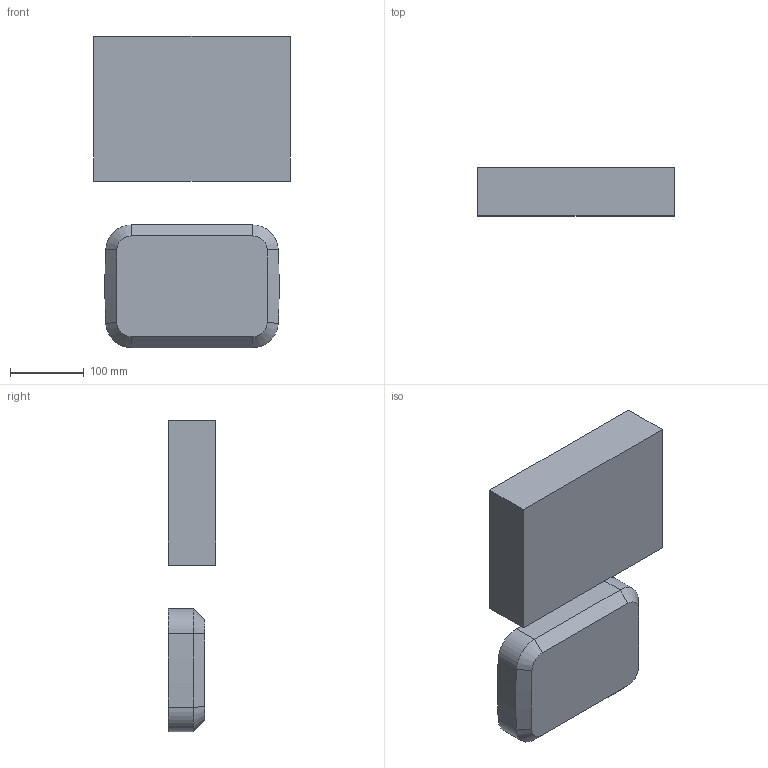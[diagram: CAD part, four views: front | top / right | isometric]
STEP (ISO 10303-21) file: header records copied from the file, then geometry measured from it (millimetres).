
FILE_DESCRIPTION (( 'STEP AP203' ), '1' );
FILE_NAME ('STA-300-167-V01.STEP', '2020-03-05T12:15:40', ( '' ), ( '' ), 'SwSTEP 2.0', 'SolidWorks 2018', '' );
FILE_SCHEMA (( 'CONFIG_CONTROL_DESIGN' ));
Length unit declared in the file: millimetre
Products named in the file (1): STA-300-167-V01
Bounding box: 267 x 65 x 423.55 mm (x, y, z)
Volume: 3418935 mm3; surface area: 302777.3 mm2
Topology: 2 solids, 2 shells, 41 faces, 92 edges, 56 vertices
Faces by surface type: plane 17, cylinder 12, cone 12
Entity records: 1209 total; most frequent: DIRECTION 212, CARTESIAN_POINT 190, ORIENTED_EDGE 184, EDGE_CURVE 92, AXIS2_PLACEMENT_3D 78, LINE 56, VECTOR 56, VERTEX_POINT 56
